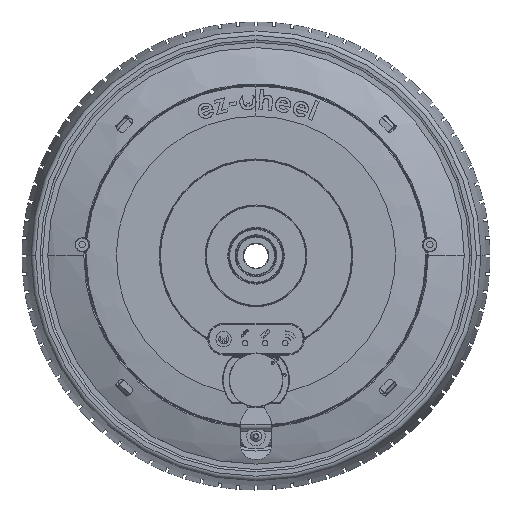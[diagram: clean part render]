
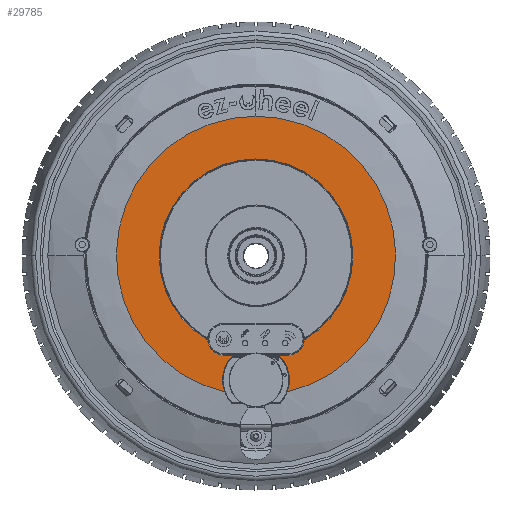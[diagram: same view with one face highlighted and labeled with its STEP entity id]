
A CAD part, top view. The second image highlights one B-rep face of the part: STEP entity #29785.
In plain terms, the highlighted planar face has unit normal (0, 0, 1).
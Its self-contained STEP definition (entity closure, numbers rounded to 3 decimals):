
#28 = CARTESIAN_POINT ( 'NONE',  ( 21., -64.3, 107.5 ) ) ;
#691 = FACE_BOUND ( 'NONE', #25628, .T. ) ;
#882 = EDGE_CURVE ( 'NONE', #35768, #23265, #29676, .T. ) ;
#1306 = EDGE_CURVE ( 'NONE', #17034, #4887, #20972, .T. ) ;
#2247 = CARTESIAN_POINT ( 'NONE',  ( 14.6, -65.2, 107.5 ) ) ;
#2920 = EDGE_CURVE ( 'NONE', #4887, #5329, #38370, .T. ) ;
#3152 = DIRECTION ( 'NONE',  ( 1., 0., 0. ) ) ;
#3252 = CARTESIAN_POINT ( 'NONE',  ( -20.348, -88.183, 107.5 ) ) ;
#3623 = EDGE_CURVE ( 'NONE', #14417, #34541, #6323, .T. ) ;
#3913 = ORIENTED_EDGE ( 'NONE', *, *, #8689, .T. ) ;
#4329 = VERTEX_POINT ( 'NONE', #34364 ) ;
#4339 = ORIENTED_EDGE ( 'NONE', *, *, #10811, .F. ) ;
#4887 = VERTEX_POINT ( 'NONE', #12475 ) ;
#5295 = VERTEX_POINT ( 'NONE', #9062 ) ;
#5329 = VERTEX_POINT ( 'NONE', #27590 ) ;
#5413 = AXIS2_PLACEMENT_3D ( 'NONE', #27555, #9079, #30697 ) ;
#5878 = DIRECTION ( 'NONE',  ( 0., 0., -1. ) ) ;
#6306 = EDGE_CURVE ( 'NONE', #34541, #7042, #16411, .T. ) ;
#6323 = CIRCLE ( 'NONE', #31498, 90.5 ) ;
#6643 = CARTESIAN_POINT ( 'NONE',  ( -16.079, -65.853, 107.5 ) ) ;
#7042 = VERTEX_POINT ( 'NONE', #3252 ) ;
#7357 = EDGE_CURVE ( 'NONE', #34969, #34596, #37750, .T. ) ;
#7360 = CARTESIAN_POINT ( 'NONE',  ( -21., -54., 107.5 ) ) ;
#8128 = PLANE ( 'NONE',  #26089 ) ;
#8591 = CARTESIAN_POINT ( 'NONE',  ( 0., 0., 107.5 ) ) ;
#8689 = EDGE_CURVE ( 'NONE', #5329, #5295, #11554, .T. ) ;
#9062 = CARTESIAN_POINT ( 'NONE',  ( 31.291, -54.44, 107.5 ) ) ;
#9079 = DIRECTION ( 'NONE',  ( 0., 0., 1. ) ) ;
#9479 = ORIENTED_EDGE ( 'NONE', *, *, #39292, .F. ) ;
#10424 = DIRECTION ( 'NONE',  ( 0., 0., -1. ) ) ;
#10477 = CIRCLE ( 'NONE', #16375, 10.3 ) ;
#10542 = DIRECTION ( 'NONE',  ( 1., 0., 0. ) ) ;
#10811 = EDGE_CURVE ( 'NONE', #4329, #11736, #22086, .T. ) ;
#10974 = DIRECTION ( 'NONE',  ( 0., 0., 1. ) ) ;
#11148 = DIRECTION ( 'NONE',  ( 0., 0., 1. ) ) ;
#11299 = CARTESIAN_POINT ( 'NONE',  ( 0., 0., 107.5 ) ) ;
#11325 = CARTESIAN_POINT ( 'NONE',  ( 14.6, -67.2, 107.5 ) ) ;
#11554 = CIRCLE ( 'NONE', #35549, 62.792 ) ;
#11579 = DIRECTION ( 'NONE',  ( 0., 0., 1. ) ) ;
#11736 = VERTEX_POINT ( 'NONE', #2247 ) ;
#12475 = CARTESIAN_POINT ( 'NONE',  ( -62.792, 0., 107.5 ) ) ;
#13354 = CARTESIAN_POINT ( 'NONE',  ( -21., -64.3, 107.5 ) ) ;
#13551 = CIRCLE ( 'NONE', #14747, 21.75 ) ;
#14192 = CARTESIAN_POINT ( 'NONE',  ( -21., -64.3, 107.5 ) ) ;
#14417 = VERTEX_POINT ( 'NONE', #36418 ) ;
#14436 = DIRECTION ( 'NONE',  ( 1., 0., 0. ) ) ;
#14747 = AXIS2_PLACEMENT_3D ( 'NONE', #30033, #11579, #33175 ) ;
#14783 = AXIS2_PLACEMENT_3D ( 'NONE', #29425, #10974, #32582 ) ;
#16375 = AXIS2_PLACEMENT_3D ( 'NONE', #7360, #28984, #10542 ) ;
#16411 = CIRCLE ( 'NONE', #14783, 90.5 ) ;
#16576 = CIRCLE ( 'NONE', #18039, 10.3 ) ;
#17034 = VERTEX_POINT ( 'NONE', #34146 ) ;
#17736 = AXIS2_PLACEMENT_3D ( 'NONE', #11325, #32921, #14436 ) ;
#17952 = DIRECTION ( 'NONE',  ( 0., 0., -1. ) ) ;
#18039 = AXIS2_PLACEMENT_3D ( 'NONE', #28850, #10424, #32009 ) ;
#18363 = DIRECTION ( 'NONE',  ( 0., 0., -1. ) ) ;
#18826 = VECTOR ( 'NONE', #33251, 1000. ) ;
#18948 = ORIENTED_EDGE ( 'NONE', *, *, #23163, .T. ) ;
#19159 = EDGE_CURVE ( 'NONE', #23265, #17034, #10477, .T. ) ;
#19929 = ORIENTED_EDGE ( 'NONE', *, *, #36460, .F. ) ;
#20007 = ORIENTED_EDGE ( 'NONE', *, *, #1306, .T. ) ;
#20389 = ORIENTED_EDGE ( 'NONE', *, *, #882, .T. ) ;
#20972 = CIRCLE ( 'NONE', #22355, 62.792 ) ;
#21477 = VECTOR ( 'NONE', #34704, 1000. ) ;
#22086 = CIRCLE ( 'NONE', #17736, 2. ) ;
#22355 = AXIS2_PLACEMENT_3D ( 'NONE', #32671, #18363, #32403 ) ;
#22414 = EDGE_CURVE ( 'NONE', #14417, #4329, #32055, .T. ) ;
#23163 = EDGE_CURVE ( 'NONE', #5295, #35768, #16576, .T. ) ;
#23265 = VERTEX_POINT ( 'NONE', #14192 ) ;
#23966 = DIRECTION ( 'NONE',  ( 1., 0., 0. ) ) ;
#24410 = CARTESIAN_POINT ( 'NONE',  ( 0., 0., 107.5 ) ) ;
#24778 = CARTESIAN_POINT ( 'NONE',  ( 0., 90.5, 107.5 ) ) ;
#24814 = DIRECTION ( 'NONE',  ( 0., 0., 1. ) ) ;
#25628 = EDGE_LOOP ( 'NONE', ( #20007, #25829, #3913, #18948, #20389, #27818 ) ) ;
#25829 = ORIENTED_EDGE ( 'NONE', *, *, #2920, .T. ) ;
#26089 = AXIS2_PLACEMENT_3D ( 'NONE', #11299, #26627, #36020 ) ;
#26250 = ORIENTED_EDGE ( 'NONE', *, *, #3623, .T. ) ;
#26627 = DIRECTION ( 'NONE',  ( 0., 0., 1. ) ) ;
#26989 = LINE ( 'NONE', #30120, #18826 ) ;
#27510 = DIRECTION ( 'NONE',  ( 1., 0., 0. ) ) ;
#27555 = CARTESIAN_POINT ( 'NONE',  ( -14.6, -67.2, 107.5 ) ) ;
#27590 = CARTESIAN_POINT ( 'NONE',  ( 62.792, 0., 107.5 ) ) ;
#27818 = ORIENTED_EDGE ( 'NONE', *, *, #19159, .T. ) ;
#28850 = CARTESIAN_POINT ( 'NONE',  ( 21., -54., 107.5 ) ) ;
#28984 = DIRECTION ( 'NONE',  ( 0., 0., -1. ) ) ;
#29257 = CARTESIAN_POINT ( 'NONE',  ( 0., 0., 107.5 ) ) ;
#29425 = CARTESIAN_POINT ( 'NONE',  ( 0., 0., 107.5 ) ) ;
#29603 = CARTESIAN_POINT ( 'NONE',  ( 0., -80.5, 107.5 ) ) ;
#29676 = LINE ( 'NONE', #13354, #21477 ) ;
#29785 = ADVANCED_FACE ( 'NONE', ( #33678, #691 ), #8128, .T. ) ;
#30033 = CARTESIAN_POINT ( 'NONE',  ( 0., -80.5, 107.5 ) ) ;
#30120 = CARTESIAN_POINT ( 'NONE',  ( -14.6, -65.2, 107.5 ) ) ;
#30697 = DIRECTION ( 'NONE',  ( 1., 0., 0. ) ) ;
#30967 = CARTESIAN_POINT ( 'NONE',  ( -14.6, -65.2, 107.5 ) ) ;
#31498 = AXIS2_PLACEMENT_3D ( 'NONE', #29257, #24814, #3152 ) ;
#32009 = DIRECTION ( 'NONE',  ( 1., 0., 0. ) ) ;
#32055 = CIRCLE ( 'NONE', #32200, 21.75 ) ;
#32200 = AXIS2_PLACEMENT_3D ( 'NONE', #29603, #11148, #32738 ) ;
#32364 = ORIENTED_EDGE ( 'NONE', *, *, #7357, .F. ) ;
#32403 = DIRECTION ( 'NONE',  ( 1., 0., 0. ) ) ;
#32582 = DIRECTION ( 'NONE',  ( 1., 0., 0. ) ) ;
#32671 = CARTESIAN_POINT ( 'NONE',  ( 0., 0., 107.5 ) ) ;
#32738 = DIRECTION ( 'NONE',  ( -1., 0., 0. ) ) ;
#32921 = DIRECTION ( 'NONE',  ( 0., 0., 1. ) ) ;
#33175 = DIRECTION ( 'NONE',  ( -1., 0., 0. ) ) ;
#33251 = DIRECTION ( 'NONE',  ( -1., 0., 0. ) ) ;
#33678 = FACE_OUTER_BOUND ( 'NONE', #36634, .T. ) ;
#34146 = CARTESIAN_POINT ( 'NONE',  ( -31.291, -54.44, 107.5 ) ) ;
#34364 = CARTESIAN_POINT ( 'NONE',  ( 16.079, -65.853, 107.5 ) ) ;
#34541 = VERTEX_POINT ( 'NONE', #24778 ) ;
#34596 = VERTEX_POINT ( 'NONE', #6643 ) ;
#34704 = DIRECTION ( 'NONE',  ( -1., 0., 0. ) ) ;
#34969 = VERTEX_POINT ( 'NONE', #30967 ) ;
#35122 = AXIS2_PLACEMENT_3D ( 'NONE', #8591, #17952, #23966 ) ;
#35549 = AXIS2_PLACEMENT_3D ( 'NONE', #24410, #5878, #27510 ) ;
#35768 = VERTEX_POINT ( 'NONE', #28 ) ;
#35915 = ORIENTED_EDGE ( 'NONE', *, *, #6306, .T. ) ;
#36020 = DIRECTION ( 'NONE',  ( 1., 0., 0. ) ) ;
#36418 = CARTESIAN_POINT ( 'NONE',  ( 20.348, -88.183, 107.5 ) ) ;
#36460 = EDGE_CURVE ( 'NONE', #11736, #34969, #26989, .T. ) ;
#36634 = EDGE_LOOP ( 'NONE', ( #9479, #32364, #19929, #4339, #38418, #26250, #35915 ) ) ;
#37750 = CIRCLE ( 'NONE', #5413, 2. ) ;
#38370 = CIRCLE ( 'NONE', #35122, 62.792 ) ;
#38418 = ORIENTED_EDGE ( 'NONE', *, *, #22414, .F. ) ;
#39292 = EDGE_CURVE ( 'NONE', #34596, #7042, #13551, .T. ) ;
